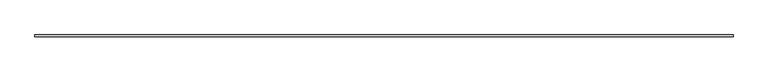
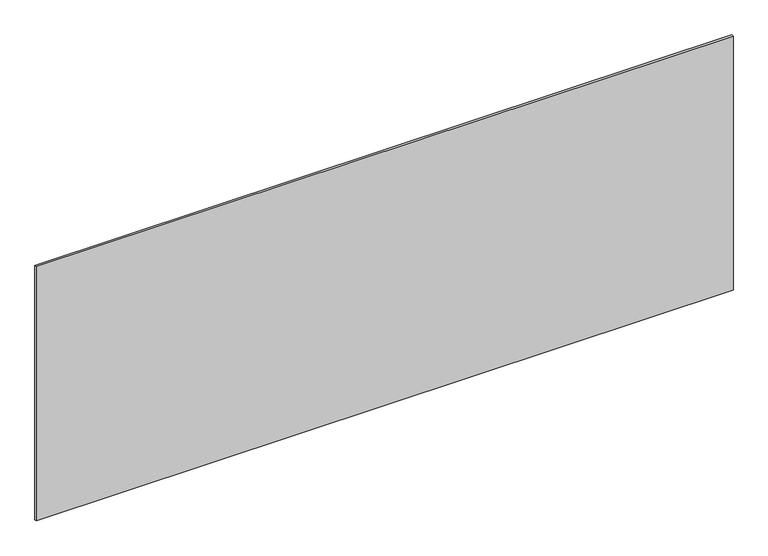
"""IFC4 building model written with IfcOpenShell, lengths in millimetres: plate geometry, システム パネル : 標準."""

from ifc_helpers import new_model, si_unit, origin, origin_with_axes, place, context, project, spatial, polyline, outline, extrude, source, transform, mapped, element, save


def plate_ce47b6dc(model_context):
    return source(origin(), model_context, "Body", "SweptSolid", [
        extrude(outline(polyline([(1697.5, -5.0), (-1697.5, -5.0), (-1697.5, 5.0), (1697.5, 5.0), (1697.5, -5.0)])), origin_with_axes(), (0.0, 0.0, 1.0), 1309.8788902),
    ])


if __name__ == "__main__":
    model = new_model("IFC4")
    model_context = context("Model", 3, world=origin())
    ifc_project = project(units=[si_unit("LENGTHUNIT", "METRE", prefix="MILLI")], contexts=[model_context])
    site = spatial("IfcSite", under=ifc_project)
    building = spatial("IfcBuilding", under=site)
    placement = place(None, origin())
    plate_shape = plate_ce47b6dc(model_context)
    element("IfcPlate", 1, ObjectType="システム パネル : 標準", at=placement, inside=building, context=model_context, shape_type="MappedRepresentation", body=[
        mapped(plate_shape, transform((0.0, 0.0, 0.0), x_axis=(1.0, 0.0, 0.0), y_axis=(0.0, 1.0, 0.0), z_axis=(0.0, 0.0, 1.0))),
    ])
    save(model, "model.ifc")
